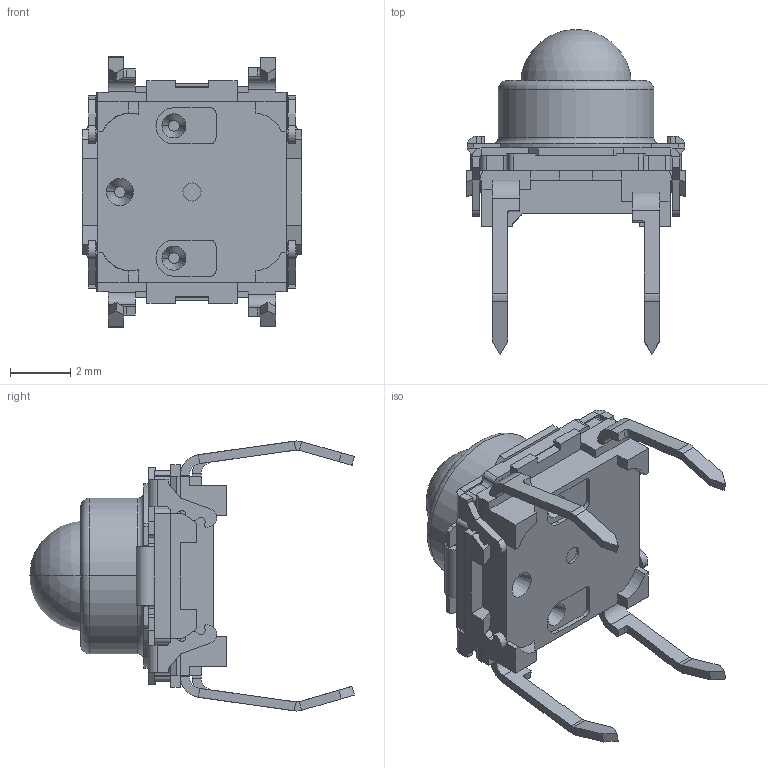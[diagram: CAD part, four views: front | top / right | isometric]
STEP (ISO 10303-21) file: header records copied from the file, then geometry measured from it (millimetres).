
FILE_DESCRIPTION((''),'2;1');
FILE_NAME('CU33MR1014FP_SW0001','2016-03-01T',('pg9536d'),(''),'PRO/ENGINEER BY PARAMETRIC TECHNOLOGY CORPORATION, 2013320','PRO/ENGINEER BY PARAMETRIC TECHNOLOGY CORPORATION, 2013320','');
FILE_SCHEMA(('CONFIG_CONTROL_DESIGN'));
Length unit declared in the file: millimetre
Products named in the file (1): CU33MR1014FP_SW0001
Bounding box: 7.3 x 10.82 x 8.99 mm (x, y, z)
Volume: 159.6 mm3; surface area: 280.9 mm2
Topology: 1 solids, 1 shells, 497 faces, 1354 edges, 849 vertices
Faces by surface type: plane 367, cylinder 112, cone 10, torus 6, sphere 2
Entity records: 15584 total; most frequent: CARTESIAN_POINT 2866, ORIENTED_EDGE 2704, DIRECTION 2580, EDGE_CURVE 1352, VECTOR 1066, LINE 1066, VERTEX_POINT 849, AXIS2_PLACEMENT_3D 757
